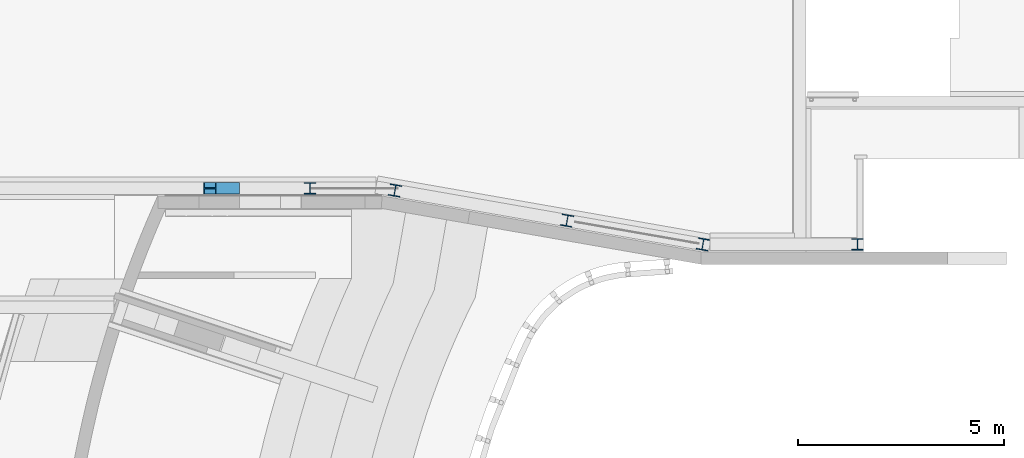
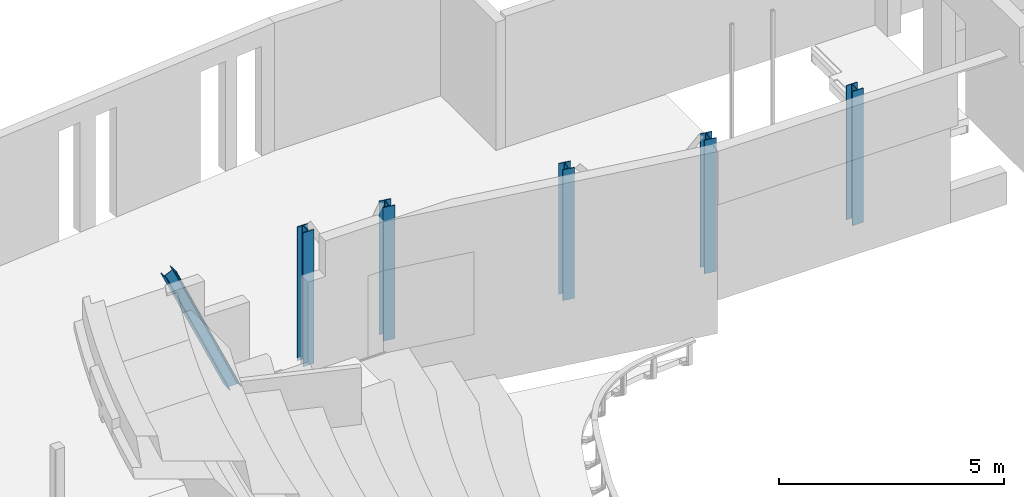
# One storey, part 6 of 68: 6 columns.
"""IFC2X3 building model written with IfcOpenShell, lengths in millimetres."""

from ifc_helpers import new_model, entity, si_unit, converted_unit, derived_unit, direction, frame, frame_2d, origin, place, context, subcontext, project, spatial, polyline, circle_curve, parameter, trimmed, segment, composite_curve, i_section, outline, extrude, clip, halfspace, source, transform, mapped, material, type_object, type_shapes, element, save


model = new_model("IFC2X3")

# Units and contexts
model_context = context("Model", 3, precision=0.01, world=origin(), true_north=direction((6.12303176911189e-17, 1.0)))
body_context = subcontext(model_context, "Body", "Model", "MODEL_VIEW")
ifc_project = project(units=[si_unit("LENGTHUNIT", "METRE", prefix="MILLI"), si_unit("AREAUNIT", "SQUARE_METRE", prefix="MILLI"), si_unit("VOLUMEUNIT", "CUBIC_METRE"), converted_unit("PLANEANGLEUNIT", "DEGREE", entity("IfcRatioMeasure", 0.0174532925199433), si_unit("PLANEANGLEUNIT", "RADIAN"), dimensions=[0, 0, 0, 0, 0, 0, 0]), si_unit("MASSUNIT", "GRAM", prefix="KILO"), derived_unit("MASSDENSITYUNIT", [(si_unit("MASSUNIT", "GRAM", prefix="KILO"), 1), (si_unit("LENGTHUNIT", "METRE"), -3)]), derived_unit("MOMENTOFINERTIAUNIT", [(si_unit("LENGTHUNIT", "METRE"), 4)]), si_unit("TIMEUNIT", "SECOND"), si_unit("FREQUENCYUNIT", "HERTZ"), si_unit("THERMODYNAMICTEMPERATUREUNIT", "DEGREE_CELSIUS"), derived_unit("THERMALTRANSMITTANCEUNIT", [(si_unit("MASSUNIT", "GRAM", prefix="KILO"), 1), (si_unit("THERMODYNAMICTEMPERATUREUNIT", "KELVIN"), -1), (si_unit("TIMEUNIT", "SECOND"), -3)]), derived_unit("VOLUMETRICFLOWRATEUNIT", [(si_unit("LENGTHUNIT", "METRE"), 3), (si_unit("TIMEUNIT", "SECOND"), -1)]), si_unit("ELECTRICCURRENTUNIT", "AMPERE"), si_unit("ELECTRICVOLTAGEUNIT", "VOLT"), si_unit("POWERUNIT", "WATT"), si_unit("FORCEUNIT", "NEWTON", prefix="KILO"), si_unit("ILLUMINANCEUNIT", "LUX"), si_unit("LUMINOUSFLUXUNIT", "LUMEN"), si_unit("LUMINOUSINTENSITYUNIT", "CANDELA"), derived_unit("USERDEFINED", [(si_unit("MASSUNIT", "GRAM", prefix="KILO"), -1), (si_unit("LENGTHUNIT", "METRE"), -2), (si_unit("TIMEUNIT", "SECOND"), 3), (si_unit("LUMINOUSFLUXUNIT", "LUMEN"), 1)]), derived_unit("LINEARVELOCITYUNIT", [(si_unit("LENGTHUNIT", "METRE"), 1), (si_unit("TIMEUNIT", "SECOND"), -1)]), si_unit("PRESSUREUNIT", "PASCAL"), derived_unit("USERDEFINED", [(si_unit("LENGTHUNIT", "METRE"), -2), (si_unit("MASSUNIT", "GRAM", prefix="KILO"), 1), (si_unit("TIMEUNIT", "SECOND"), -2)]), derived_unit("LINEARFORCEUNIT", [(si_unit("MASSUNIT", "GRAM", prefix="KILO"), 1), (si_unit("LENGTHUNIT", "METRE"), 1), (si_unit("TIMEUNIT", "SECOND"), -2), (si_unit("LENGTHUNIT", "METRE"), -1)]), derived_unit("PLANARFORCEUNIT", [(si_unit("MASSUNIT", "GRAM", prefix="KILO"), 1), (si_unit("LENGTHUNIT", "METRE"), 1), (si_unit("TIMEUNIT", "SECOND"), -2), (si_unit("LENGTHUNIT", "METRE"), -2)])], contexts=[model_context])

# Site, building, storey
site_placement = place(None, origin())
site = spatial("IfcSite", under=ifc_project, at=site_placement, Name="Theater aan de Parade", CompositionType="ELEMENT")
building_placement = place(site_placement, origin())
building = spatial("IfcBuilding", under=site, at=building_placement, Name="Theater aan de Parade", CompositionType="ELEMENT")
storey_placement = place(building_placement, frame((0.0, 0.0, 8750.0)))
storey = spatial("IfcBuildingStorey", under=building, at=storey_placement, Name="02 tweede verdieping", CompositionType="ELEMENT", Elevation=8750.0)

# Columns
ifc_material = material(Name="00_PBT_MAT_staal_S355")
column_type_1 = type_object("IfcColumnType", Name="28_PBT_SC_staal_H-profiel:S355_HE280B", PredefinedType="COLUMN", material=ifc_material)
shared_shape_1 = source(origin(), body_context, "Body", "SweptSolid", [
    extrude(outline(composite_curve([segment(polyline([(122.0, -140.0), (140.0, -140.0)]), True, "CONTINUOUS"), segment(polyline([(140.0, -140.0), (140.0, 140.0)]), True, "CONTINUOUS"), segment(polyline([(140.0, 140.0), (122.0, 140.0)]), True, "CONTINUOUS"), segment(polyline([(122.0, 140.0), (122.0, 29.2499999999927)]), True, "CONTINUOUS"), segment(trimmed(circle_curve(frame_2d((98.0, 29.2500000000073), x_axis=(1.0, 0.0)), 24.0000000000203), [parameter(270.000000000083)], [parameter(0.0)], True, "PARAMETER"), False, "CONTINUOUS"), segment(polyline([(98.0, 5.24999999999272), (-98.0, 5.24999999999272)]), True, "CONTINUOUS"), segment(trimmed(circle_curve(frame_2d((-98.0, 29.2500000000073), x_axis=(0.0, -1.0)), 24.0000000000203), [parameter(270.000000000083)], [parameter(0.0)], True, "PARAMETER"), False, "CONTINUOUS"), segment(polyline([(-122.0, 29.25), (-122.0, 140.0)]), True, "CONTINUOUS"), segment(polyline([(-122.0, 140.0), (-140.0, 140.0)]), True, "CONTINUOUS"), segment(polyline([(-140.0, 140.0), (-140.0, -140.0)]), True, "CONTINUOUS"), segment(polyline([(-140.0, -140.0), (-122.0, -140.0)]), True, "CONTINUOUS"), segment(polyline([(-122.0, -140.0), (-122.0, -29.2500000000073)]), True, "CONTINUOUS"), segment(trimmed(circle_curve(frame_2d((-98.0, -29.2500000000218), x_axis=(-1.0, 0.0)), 24.0000000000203), [parameter(270.000000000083)], [parameter(0.0)], True, "PARAMETER"), False, "CONTINUOUS"), segment(polyline([(-98.0, -5.25), (98.0, -5.25)]), True, "CONTINUOUS"), segment(trimmed(circle_curve(frame_2d((98.0, -29.2500000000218), x_axis=(0.0, 1.0)), 24.0000000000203), [parameter(270.000000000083)], [parameter(0.0)], True, "PARAMETER"), False, "CONTINUOUS"), segment(polyline([(122.0, -29.2500000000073), (122.0, -140.0)]), True, "CONTINUOUS")], self_intersect=False)), frame((49946.4713059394, 44395.0, 8585.0), z_axis=(0.0, 0.0, 1.0), x_axis=(0.0, -1.0, 0.0)), (0.0, 0.0, 1.0), 3630.0),
])
type_shapes(column_type_1, [shared_shape_1])
column_1_placement = place(storey_placement, frame((0.0, 0.0, -8750.0)))
element("IfcColumn", 1, at=column_1_placement, inside=storey, type_object=column_type_1, material=ifc_material, Name="28_PBT_SC_staal_H-profiel:S355_HE280B", ObjectType="28_PBT_SC_staal_H-profiel:S355_HE280B", context=body_context, shape_type="MappedRepresentation", body=[
    mapped(shared_shape_1, transform((0.0, 0.0, 0.0), scale=1.0)),
])
column_type_2 = type_object("IfcColumnType", Name="28_PBT_SC_staal_H-profiel:S355_HE280B", PredefinedType="COLUMN", material=ifc_material)
shared_shape_2 = source(origin(), body_context, "Body", "SweptSolid", [
    extrude(outline(composite_curve([segment(polyline([(122.0, -140.0), (140.0, -140.0)]), True, "CONTINUOUS"), segment(polyline([(140.0, -140.0), (140.0, 140.0)]), True, "CONTINUOUS"), segment(polyline([(140.0, 140.0), (122.0, 140.0)]), True, "CONTINUOUS"), segment(polyline([(122.0, 140.0), (122.0, 29.2500000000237)]), True, "CONTINUOUS"), segment(trimmed(circle_curve(frame_2d((98.0, 29.2500000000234), x_axis=(1.0, 0.0)), 24.000000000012), [parameter(270.000000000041)], [parameter(0.0)], True, "PARAMETER"), False, "CONTINUOUS"), segment(polyline([(98.0, 5.25000000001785), (-98.0, 5.25000000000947)]), True, "CONTINUOUS"), segment(trimmed(circle_curve(frame_2d((-98.0, 29.2500000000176), x_axis=(0.0, -1.0)), 24.000000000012), [parameter(270.000000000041)], [parameter(0.0)], True, "PARAMETER"), False, "CONTINUOUS"), segment(polyline([(-122.0, 29.2500000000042), (-122.0, 140.0)]), True, "CONTINUOUS"), segment(polyline([(-122.0, 140.0), (-140.0, 140.0)]), True, "CONTINUOUS"), segment(polyline([(-140.0, 140.0), (-140.0, -140.0)]), True, "CONTINUOUS"), segment(polyline([(-140.0, -140.0), (-122.0, -140.0)]), True, "CONTINUOUS"), segment(polyline([(-122.0, -140.0), (-122.0, -29.2500000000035)]), True, "CONTINUOUS"), segment(trimmed(circle_curve(frame_2d((-98.0, -29.2500000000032), x_axis=(-1.0, 0.0)), 24.000000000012), [parameter(270.000000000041)], [parameter(0.0)], True, "PARAMETER"), False, "CONTINUOUS"), segment(polyline([(-98.0, -5.24999999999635), (98.0, -5.24999999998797)]), True, "CONTINUOUS"), segment(trimmed(circle_curve(frame_2d((98.0, -29.2499999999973), x_axis=(0.0, 1.0)), 24.000000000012), [parameter(270.000000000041)], [parameter(0.0)], True, "PARAMETER"), False, "CONTINUOUS"), segment(polyline([(122.0, -29.249999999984), (122.0, -140.0)]), True, "CONTINUOUS")], self_intersect=False)), frame((56185.6044607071, 43612.1397766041, 8660.0), z_axis=(0.0, 0.0, 1.0), x_axis=(0.172380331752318, 0.985030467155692, 0.0)), (0.0, 0.0, 1.0), 3545.0),
])
type_shapes(column_type_2, [shared_shape_2])
column_2_placement = place(storey_placement, frame((0.0, 0.0, -8750.0)))
element("IfcColumn", 2, at=column_2_placement, inside=storey, type_object=column_type_2, material=ifc_material, Name="28_PBT_SC_staal_H-profiel:S355_HE280B", ObjectType="28_PBT_SC_staal_H-profiel:S355_HE280B", context=body_context, shape_type="MappedRepresentation", body=[
    mapped(shared_shape_2, transform((0.0, 0.0, 0.0), scale=1.0)),
])
column_type_3 = type_object("IfcColumnType", Name="28_PBT_SC_staal_H-profiel:S355_HE280B", PredefinedType="COLUMN", material=ifc_material)
shared_shape_3 = source(origin(), body_context, "Body", "SweptSolid", [
    extrude(outline(composite_curve([segment(polyline([(122.0, -140.0), (140.0, -140.0)]), True, "CONTINUOUS"), segment(polyline([(140.0, -140.0), (140.0, 140.0)]), True, "CONTINUOUS"), segment(polyline([(140.0, 140.0), (122.0, 140.0)]), True, "CONTINUOUS"), segment(polyline([(122.0, 140.0), (122.0, 29.2500000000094)]), True, "CONTINUOUS"), segment(trimmed(circle_curve(frame_2d((98.0, 29.2500000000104), x_axis=(1.0, 0.0)), 24.000000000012), [parameter(270.000000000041)], [parameter(0.0)], True, "PARAMETER"), False, "CONTINUOUS"), segment(polyline([(98.0, 5.25000000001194), (-98.0, 5.24999999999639)]), True, "CONTINUOUS"), segment(trimmed(circle_curve(frame_2d((-98.0, 29.2500000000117), x_axis=(0.0, -1.0)), 24.000000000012), [parameter(270.000000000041)], [parameter(0.0)], True, "PARAMETER"), False, "CONTINUOUS"), segment(polyline([(-122.0, 29.2499999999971), (-122.0, 140.0)]), True, "CONTINUOUS"), segment(polyline([(-122.0, 140.0), (-140.0, 140.0)]), True, "CONTINUOUS"), segment(polyline([(-140.0, 140.0), (-140.0, -140.0)]), True, "CONTINUOUS"), segment(polyline([(-140.0, -140.0), (-122.0, -140.0)]), True, "CONTINUOUS"), segment(polyline([(-122.0, -140.0), (-122.0, -29.2500000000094)]), True, "CONTINUOUS"), segment(trimmed(circle_curve(frame_2d((-98.0, -29.2500000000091), x_axis=(-1.0, 0.0)), 24.000000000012), [parameter(270.000000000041)], [parameter(0.0)], True, "PARAMETER"), False, "CONTINUOUS"), segment(polyline([(-98.0, -5.25000000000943), (98.0, -5.24999999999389)]), True, "CONTINUOUS"), segment(trimmed(circle_curve(frame_2d((98.0, -29.2500000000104), x_axis=(0.0, 1.0)), 24.000000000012), [parameter(270.000000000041)], [parameter(0.0)], True, "PARAMETER"), False, "CONTINUOUS"), segment(polyline([(122.0, -29.2499999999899), (122.0, -140.0)]), True, "CONTINUOUS")], self_intersect=False)), frame((59483.5460413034, 43035.0, 8585.0), z_axis=(0.0, 0.0, 1.0), x_axis=(0.172380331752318, 0.985030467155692, 0.0)), (0.0, 0.0, 1.0), 3620.0),
])
type_shapes(column_type_3, [shared_shape_3])
column_3_placement = place(storey_placement, frame((0.0, 0.0, -8750.0)))
element("IfcColumn", 3, at=column_3_placement, inside=storey, type_object=column_type_3, material=ifc_material, Name="28_PBT_SC_staal_H-profiel:S355_HE280B", ObjectType="28_PBT_SC_staal_H-profiel:S355_HE280B", context=body_context, shape_type="MappedRepresentation", body=[
    mapped(shared_shape_3, transform((0.0, 0.0, 0.0), scale=1.0)),
])
column_type_4 = type_object("IfcColumnType", Name="28_PBT_SC_staal_H-profiel:S355_HE280B", PredefinedType="COLUMN", material=ifc_material)
shared_shape_4 = source(origin(), body_context, "Body", "SweptSolid", [
    extrude(outline(composite_curve([segment(polyline([(122.0, -140.0), (140.0, -140.0)]), True, "CONTINUOUS"), segment(polyline([(140.0, -140.0), (140.0, 140.0)]), True, "CONTINUOUS"), segment(polyline([(140.0, 140.0), (122.0, 140.0)]), True, "CONTINUOUS"), segment(polyline([(122.0, 140.0), (122.0, 29.2500000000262)]), True, "CONTINUOUS"), segment(trimmed(circle_curve(frame_2d((98.0, 29.250000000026), x_axis=(1.0, 0.0)), 24.000000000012), [parameter(270.000000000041)], [parameter(0.0)], True, "PARAMETER"), False, "CONTINUOUS"), segment(polyline([(98.0, 5.25000000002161), (-98.0, 5.25000000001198)]), True, "CONTINUOUS"), segment(trimmed(circle_curve(frame_2d((-98.0, 29.2500000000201), x_axis=(0.0, -1.0)), 24.000000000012), [parameter(270.000000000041)], [parameter(0.0)], True, "PARAMETER"), False, "CONTINUOUS"), segment(polyline([(-122.0, 29.2500000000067), (-122.0, 140.0)]), True, "CONTINUOUS"), segment(polyline([(-122.0, 140.0), (-140.0, 140.0)]), True, "CONTINUOUS"), segment(polyline([(-140.0, 140.0), (-140.0, -140.0)]), True, "CONTINUOUS"), segment(polyline([(-140.0, -140.0), (-122.0, -140.0)]), True, "CONTINUOUS"), segment(polyline([(-122.0, -140.0), (-122.0, -29.250000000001)]), True, "CONTINUOUS"), segment(trimmed(circle_curve(frame_2d((-98.0, -29.2500000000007), x_axis=(-1.0, 0.0)), 24.000000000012), [parameter(270.000000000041)], [parameter(0.0)], True, "PARAMETER"), False, "CONTINUOUS"), segment(polyline([(-98.0, -5.24999999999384), (98.0, -5.24999999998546)]), True, "CONTINUOUS"), segment(trimmed(circle_curve(frame_2d((98.0, -29.2499999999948), x_axis=(0.0, 1.0)), 24.000000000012), [parameter(270.000000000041)], [parameter(0.0)], True, "PARAMETER"), False, "CONTINUOUS"), segment(polyline([(122.0, -29.2499999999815), (122.0, -140.0)]), True, "CONTINUOUS")], self_intersect=False)), frame((52005.6821149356, 44343.6261871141, 8585.0), z_axis=(0.0, 0.0, 1.0), x_axis=(0.172380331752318, 0.985030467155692, 0.0)), (0.0, 0.0, 1.0), 3620.0),
])
type_shapes(column_type_4, [shared_shape_4])
column_4_placement = place(storey_placement, frame((0.0, 0.0, -8750.0)))
element("IfcColumn", 4, at=column_4_placement, inside=storey, type_object=column_type_4, material=ifc_material, Name="28_PBT_SC_staal_H-profiel:S355_HE280B", ObjectType="28_PBT_SC_staal_H-profiel:S355_HE280B", context=body_context, shape_type="MappedRepresentation", body=[
    mapped(shared_shape_4, transform((0.0, 0.0, 0.0), scale=1.0)),
])
column_type_5 = type_object("IfcColumnType", Name="28_PBT_SC_staal_H-profiel:S355_HE280B", PredefinedType="COLUMN", material=ifc_material)
shared_shape_5 = source(origin(), body_context, "Body", "SweptSolid", [
    extrude(outline(composite_curve([segment(polyline([(122.0, -140.0), (140.0, -140.0)]), True, "CONTINUOUS"), segment(polyline([(140.0, -140.0), (140.0, 140.0)]), True, "CONTINUOUS"), segment(polyline([(140.0, 140.0), (122.0, 140.0)]), True, "CONTINUOUS"), segment(polyline([(122.0, 140.0), (122.0, 29.2500000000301)]), True, "CONTINUOUS"), segment(trimmed(circle_curve(frame_2d((98.0, 29.2500000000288), x_axis=(1.0, 0.0)), 24.0000000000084), [parameter(270.000000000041)], [parameter(0.0)], True, "PARAMETER"), False, "CONTINUOUS"), segment(polyline([(98.0, 5.25000000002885), (-98.0, 5.24999999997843)]), True, "CONTINUOUS"), segment(trimmed(circle_curve(frame_2d((-98.0, 29.2499999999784), x_axis=(0.0, -1.0)), 24.0000000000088), [parameter(270.000000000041)], [parameter(0.0)], True, "PARAMETER"), False, "CONTINUOUS"), segment(polyline([(-122.0, 29.2499999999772), (-122.0, 140.0)]), True, "CONTINUOUS"), segment(polyline([(-122.0, 140.0), (-140.0, 140.0)]), True, "CONTINUOUS"), segment(polyline([(-140.0, 140.0), (-140.0, -140.0)]), True, "CONTINUOUS"), segment(polyline([(-140.0, -140.0), (-122.0, -140.0)]), True, "CONTINUOUS"), segment(polyline([(-122.0, -140.0), (-122.0, -29.2500000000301)]), True, "CONTINUOUS"), segment(trimmed(circle_curve(frame_2d((-98.0, -29.2500000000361), x_axis=(-1.0, 0.0)), 24.0000000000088), [parameter(270.000000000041)], [parameter(0.0)], True, "PARAMETER"), False, "CONTINUOUS"), segment(polyline([(-98.0, -5.25000000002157), (98.0, -5.24999999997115)]), True, "CONTINUOUS"), segment(trimmed(circle_curve(frame_2d((98.0, -29.2499999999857), x_axis=(0.0, 1.0)), 24.0000000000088), [parameter(270.000000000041)], [parameter(0.0)], True, "PARAMETER"), False, "CONTINUOUS"), segment(polyline([(122.0, -29.2499999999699), (122.0, -140.0)]), True, "CONTINUOUS")], self_intersect=False)), frame((63241.5848518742, 43035.0, 8575.0), z_axis=(0.0, 0.0, 1.0), x_axis=(0.0, -1.0, 0.0)), (0.0, 0.0, 1.0), 3640.0),
])
type_shapes(column_type_5, [shared_shape_5])
column_5_placement = place(storey_placement, frame((0.0, 0.0, -8750.0)))
element("IfcColumn", 5, at=column_5_placement, inside=storey, type_object=column_type_5, material=ifc_material, Name="28_PBT_SC_staal_H-profiel:S355_HE280B", ObjectType="28_PBT_SC_staal_H-profiel:S355_HE280B", context=body_context, shape_type="MappedRepresentation", body=[
    mapped(shared_shape_5, transform((0.0, 0.0, 0.0), scale=1.0)),
])
column_type_6 = type_object("IfcColumnType", Name="28_PBT_SC_staal_H-profiel:S355_HE280B", PredefinedType="COLUMN", material=ifc_material)
shared_shape_6 = source(origin(), body_context, "Body", "Clipping", [
    clip(extrude(i_section(OverallWidth=279.999999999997, OverallDepth=279.999999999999, WebThickness=10.4999999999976, FlangeThickness=18.0000000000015, FilletRadius=24.0000000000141, at=frame_2d((-4.32009983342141e-12, 2.27373675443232e-13), x_axis=(1.0, 0.0))), frame((48107.428556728, 44395.0, 8547.38798979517), z_axis=(-0.411514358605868, 0.0, 0.911403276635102), x_axis=(0.0, -1.0, 0.0)), (0.0, 0.0, 1.0), 4049.96870036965), halfspace(frame((41106.5581275, 44225.0, 8605.0), z_axis=(0.0, 0.0, -1.0), x_axis=(1.0, 0.0, 0.0)), False)),
])
type_shapes(column_type_6, [shared_shape_6])
column_6_placement = place(storey_placement, frame((0.0, 0.0, -8750.0)))
element("IfcColumn", 6, at=column_6_placement, inside=storey, type_object=column_type_6, material=ifc_material, Name="28_PBT_SC_staal_H-profiel:S355_HE280B", ObjectType="28_PBT_SC_staal_H-profiel:S355_HE280B", context=body_context, shape_type="MappedRepresentation", body=[
    mapped(shared_shape_6, transform((0.0, 0.0, 0.0), scale=1.0)),
])

save(model, "model.ifc")
